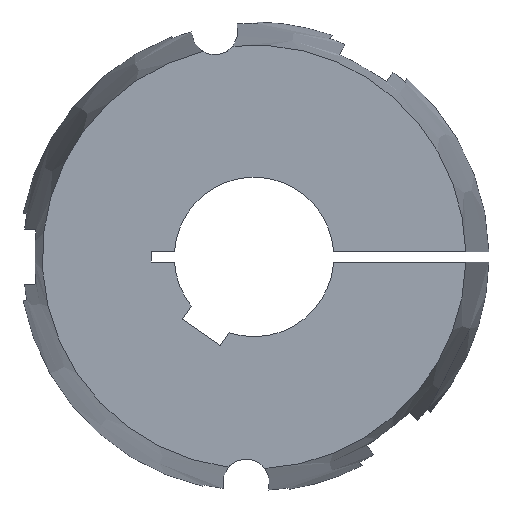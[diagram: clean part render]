
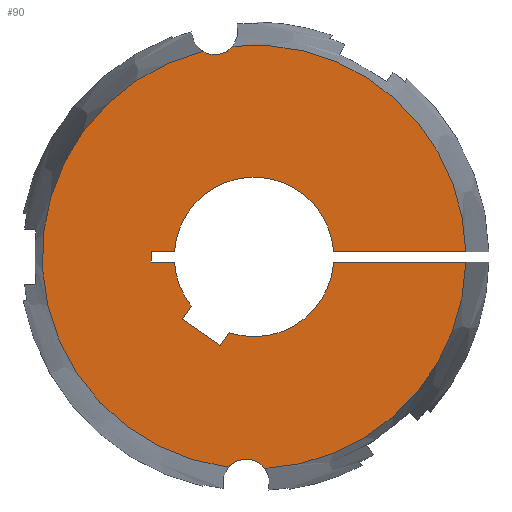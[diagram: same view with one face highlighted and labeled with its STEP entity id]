
A CAD part, left-side view. The second image highlights one B-rep face of the part: STEP entity #90.
In plain terms, the highlighted planar face has unit normal (-1, 0, 0).
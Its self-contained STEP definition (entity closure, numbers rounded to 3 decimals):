
#90 = ADVANCED_FACE( '', ( #140 ), #141, .F. );
#140 = FACE_OUTER_BOUND( '', #208, .T. );
#141 = PLANE( '', #209 );
#208 = EDGE_LOOP( '', ( #369, #370, #371, #372, #373, #374, #375, #376, #377, #378, #379, #380, #381, #382, #383, #384 ) );
#209 = AXIS2_PLACEMENT_3D( '', #385, #386, #387 );
#369 = ORIENTED_EDGE( '', *, *, #548, .F. );
#370 = ORIENTED_EDGE( '', *, *, #601, .F. );
#371 = ORIENTED_EDGE( '', *, *, #570, .T. );
#372 = ORIENTED_EDGE( '', *, *, #583, .T. );
#373 = ORIENTED_EDGE( '', *, *, #581, .T. );
#374 = ORIENTED_EDGE( '', *, *, #578, .T. );
#375 = ORIENTED_EDGE( '', *, *, #587, .T. );
#376 = ORIENTED_EDGE( '', *, *, #602, .T. );
#377 = ORIENTED_EDGE( '', *, *, #603, .T. );
#378 = ORIENTED_EDGE( '', *, *, #604, .T. );
#379 = ORIENTED_EDGE( '', *, *, #605, .T. );
#380 = ORIENTED_EDGE( '', *, *, #606, .T. );
#381 = ORIENTED_EDGE( '', *, *, #572, .T. );
#382 = ORIENTED_EDGE( '', *, *, #607, .F. );
#383 = ORIENTED_EDGE( '', *, *, #551, .F. );
#384 = ORIENTED_EDGE( '', *, *, #608, .F. );
#385 = CARTESIAN_POINT( '', ( -114., 0., 0. ) );
#386 = DIRECTION( '', ( 1., 0., 0. ) );
#387 = DIRECTION( '', ( 0., 1., 0. ) );
#548 = EDGE_CURVE( '', #649, #651, #652, .F. );
#551 = EDGE_CURVE( '', #655, #657, #658, .F. );
#570 = EDGE_CURVE( '', #693, #691, #694, .T. );
#572 = EDGE_CURVE( '', #696, #697, #698, .T. );
#578 = EDGE_CURVE( '', #709, #707, #710, .T. );
#581 = EDGE_CURVE( '', #714, #709, #715, .T. );
#583 = EDGE_CURVE( '', #691, #714, #717, .T. );
#587 = EDGE_CURVE( '', #707, #721, #723, .T. );
#601 = EDGE_CURVE( '', #693, #649, #745, .T. );
#602 = EDGE_CURVE( '', #721, #746, #747, .T. );
#603 = EDGE_CURVE( '', #746, #748, #749, .T. );
#604 = EDGE_CURVE( '', #748, #750, #751, .T. );
#605 = EDGE_CURVE( '', #750, #752, #753, .T. );
#606 = EDGE_CURVE( '', #752, #696, #754, .T. );
#607 = EDGE_CURVE( '', #657, #697, #755, .T. );
#608 = EDGE_CURVE( '', #651, #655, #756, .T. );
#649 = VERTEX_POINT( '', #815 );
#651 = VERTEX_POINT( '', #826 );
#652 = CIRCLE( '', #827, 8.125 );
#655 = VERTEX_POINT( '', #839 );
#657 = VERTEX_POINT( '', #852 );
#658 = CIRCLE( '', #853, 8.125 );
#691 = VERTEX_POINT( '', #920 );
#693 = VERTEX_POINT( '', #923 );
#694 = LINE( '', #924, #925 );
#696 = VERTEX_POINT( '', #933 );
#697 = VERTEX_POINT( '', #934 );
#698 = LINE( '', #935, #936 );
#707 = VERTEX_POINT( '', #954 );
#709 = VERTEX_POINT( '', #957 );
#710 = LINE( '', #958, #959 );
#714 = VERTEX_POINT( '', #965 );
#715 = LINE( '', #966, #967 );
#717 = CIRCLE( '', #970, 27.5 );
#721 = VERTEX_POINT( '', #975 );
#723 = LINE( '', #978, #979 );
#745 = CIRCLE( '', #1004, 73.028 );
#746 = VERTEX_POINT( '', #1005 );
#747 = CIRCLE( '', #1006, 27.5 );
#748 = VERTEX_POINT( '', #1007 );
#749 = LINE( '', #1008, #1009 );
#750 = VERTEX_POINT( '', #1010 );
#751 = LINE( '', #1011, #1012 );
#752 = VERTEX_POINT( '', #1013 );
#753 = LINE( '', #1014, #1015 );
#754 = CIRCLE( '', #1016, 27.5 );
#755 = CIRCLE( '', #1017, 73.028 );
#756 = CIRCLE( '', #1018, 73.028 );
#815 = CARTESIAN_POINT( '', ( -114., -3.751, -72.932 ) );
#826 = CARTESIAN_POINT( '', ( -114., 8.826, -72.493 ) );
#827 = AXIS2_PLACEMENT_3D( '', #1192, #1193, #1194 );
#839 = CARTESIAN_POINT( '', ( -114., 17.661, 70.861 ) );
#852 = CARTESIAN_POINT( '', ( -114., 7.262, 72.666 ) );
#853 = AXIS2_PLACEMENT_3D( '', #1195, #1196, #1197 );
#920 = CARTESIAN_POINT( '', ( -114., -27.444, -1.75 ) );
#923 = CARTESIAN_POINT( '', ( -114., -73.007, -1.75 ) );
#924 = CARTESIAN_POINT( '', ( -114., -81., -1.75 ) );
#925 = VECTOR( '', #1227, 1000. );
#933 = CARTESIAN_POINT( '', ( -114., -27.444, 1.75 ) );
#934 = CARTESIAN_POINT( '', ( -114., -73.007, 1.75 ) );
#935 = CARTESIAN_POINT( '', ( -114., 0., 1.75 ) );
#936 = VECTOR( '', #1228, 1000. );
#954 = CARTESIAN_POINT( '', ( -114., 24.793, -21.46 ) );
#957 = CARTESIAN_POINT( '', ( -114., 11.687, -30.638 ) );
#958 = CARTESIAN_POINT( '', ( -114., 11.687, -30.638 ) );
#959 = VECTOR( '', #1233, 1000. );
#965 = CARTESIAN_POINT( '', ( -114., 8.538, -26.141 ) );
#966 = CARTESIAN_POINT( '', ( -114., 8.538, -26.141 ) );
#967 = VECTOR( '', #1236, 1000. );
#970 = AXIS2_PLACEMENT_3D( '', #1238, #1239, #1240 );
#975 = CARTESIAN_POINT( '', ( -114., 21.644, -16.964 ) );
#978 = CARTESIAN_POINT( '', ( -114., 24.793, -21.46 ) );
#979 = VECTOR( '', #1246, 1000. );
#1004 = AXIS2_PLACEMENT_3D( '', #1280, #1281, #1282 );
#1005 = CARTESIAN_POINT( '', ( -114., 27.444, -1.75 ) );
#1006 = AXIS2_PLACEMENT_3D( '', #1283, #1284, #1285 );
#1007 = CARTESIAN_POINT( '', ( -114., 35.5, -1.75 ) );
#1008 = CARTESIAN_POINT( '', ( -114., 0., -1.75 ) );
#1009 = VECTOR( '', #1286, 1000. );
#1010 = CARTESIAN_POINT( '', ( -114., 35.5, 1.75 ) );
#1011 = CARTESIAN_POINT( '', ( -114., 35.5, -1.75 ) );
#1012 = VECTOR( '', #1287, 1000. );
#1013 = CARTESIAN_POINT( '', ( -114., 27.444, 1.75 ) );
#1014 = CARTESIAN_POINT( '', ( -114., 35.5, 1.75 ) );
#1015 = VECTOR( '', #1288, 1000. );
#1016 = AXIS2_PLACEMENT_3D( '', #1289, #1290, #1291 );
#1017 = AXIS2_PLACEMENT_3D( '', #1292, #1293, #1294 );
#1018 = AXIS2_PLACEMENT_3D( '', #1295, #1296, #1297 );
#1192 = CARTESIAN_POINT( '', ( -114., 2.717, -77.85 ) );
#1193 = DIRECTION( '', ( 1., 0., 0. ) );
#1194 = DIRECTION( '', ( 0., 1., 0. ) );
#1195 = CARTESIAN_POINT( '', ( -114., 13.519, 77.85 ) );
#1196 = DIRECTION( '', ( 1., 0., 0. ) );
#1197 = DIRECTION( '', ( 0., 1., 0. ) );
#1227 = DIRECTION( '', ( 0., 1., 0. ) );
#1228 = DIRECTION( '', ( 0., -1., 0. ) );
#1233 = DIRECTION( '', ( 0., 0.819, 0.574 ) );
#1236 = DIRECTION( '', ( 0., 0.574, -0.819 ) );
#1238 = CARTESIAN_POINT( '', ( -114., 0., 0. ) );
#1239 = DIRECTION( '', ( 1., 0., 0. ) );
#1240 = DIRECTION( '', ( 0., 0., -1. ) );
#1246 = DIRECTION( '', ( 0., -0.574, 0.819 ) );
#1280 = CARTESIAN_POINT( '', ( -114., 0., 0. ) );
#1281 = DIRECTION( '', ( 1., 0., 0. ) );
#1282 = DIRECTION( '', ( 0., 1., 0. ) );
#1283 = CARTESIAN_POINT( '', ( -114., 0., 0. ) );
#1284 = DIRECTION( '', ( 1., 0., 0. ) );
#1285 = DIRECTION( '', ( 0., 0., -1. ) );
#1286 = DIRECTION( '', ( 0., 1., 0. ) );
#1287 = DIRECTION( '', ( 0., 0., 1. ) );
#1288 = DIRECTION( '', ( 0., -1., 0. ) );
#1289 = CARTESIAN_POINT( '', ( -114., 0., 0. ) );
#1290 = DIRECTION( '', ( 1., 0., 0. ) );
#1291 = DIRECTION( '', ( 0., 0., -1. ) );
#1292 = CARTESIAN_POINT( '', ( -114., 0., 0. ) );
#1293 = DIRECTION( '', ( 1., 0., 0. ) );
#1294 = DIRECTION( '', ( 0., 1., 0. ) );
#1295 = CARTESIAN_POINT( '', ( -114., 0., 0. ) );
#1296 = DIRECTION( '', ( 1., 0., 0. ) );
#1297 = DIRECTION( '', ( 0., 1., 0. ) );
